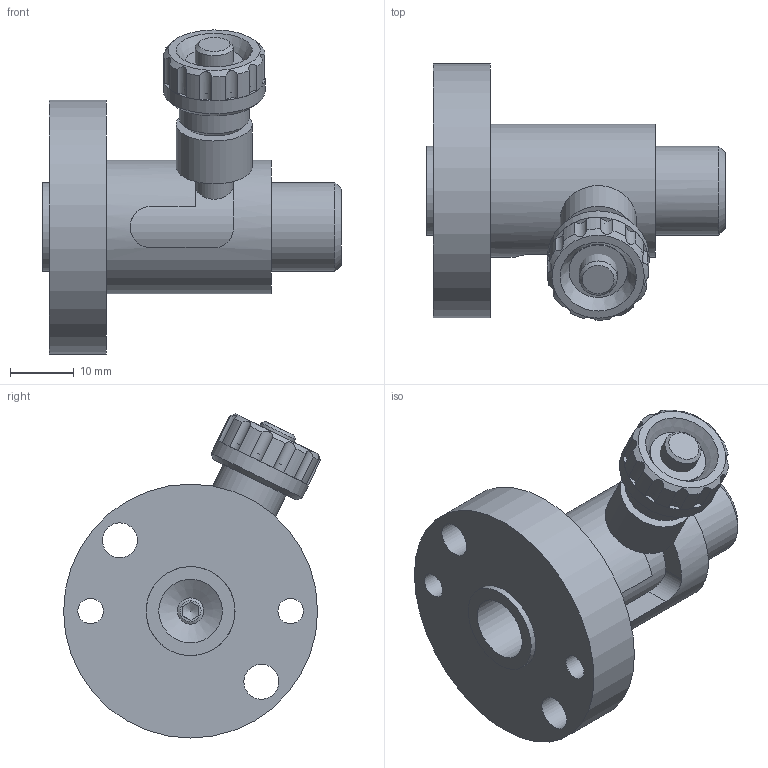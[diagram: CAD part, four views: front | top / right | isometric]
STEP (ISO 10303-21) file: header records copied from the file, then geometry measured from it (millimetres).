
FILE_DESCRIPTION(/* description */ (''),/* implementation_level */ '2;1');
FILE_NAME(/* name */ 'C:\Local Work Area\Progetti\AP\CALIBRI\26.75 APPOGGIO SVINCOLABILE BASSO\26.75.stp',/* time_stamp */ '2017-03-15T09:26:19+01:00',/* author */ ('CAD5'),/* organization */ (''),/* preprocessor_version */ 'ST-DEVELOPER v16.1',/* originating_system */ 'Autodesk Inventor 2016',/* authorisation */ '24952,9 mm^3');
FILE_SCHEMA (('AUTOMOTIVE_DESIGN { 1 0 10303 214 3 1 1 }'));
Length unit declared in the file: millimetre
Products named in the file (8): 26.76; 26.77; 26.53; VOLANTINO ZIGRINATO - 130 10 150; 24.03; UNI 5927 - M5 x 12 - 0,8; RONDELLA UNI8840-A5; 26.75
Assembly tree (7 placements, depth 2):
  26.75
    26.76
    26.77
    26.53
    VOLANTINO ZIGRINATO - 130 10 150
    24.03
    UNI 5927 - M5 x 12 - 0,8
    RONDELLA UNI8840-A5
Bounding box: 47 x 40.44 x 51.04 mm (x, y, z)
Volume: 21740.8 mm3; surface area: 13519.1 mm2
Topology: 7 solids, 7 shells, 102 faces, 240 edges, 158 vertices
Faces by surface type: cylinder 53, plane 32, cone 16, torus 1
Full cylindrical faces by diameter (mm): 4 x3, 4.134 x1, 4.917 x1, 5 x2, 5.3 x1, 5.333 x1, 5.5 x2, 6 x4, 6.647 x1, 9.2 x1, 10 x1, 11 x1, 12 x1, 13.867 x1, 14 x3, 16 x1, 21 x1, 40 x1
Entity records: 3196 total; most frequent: CARTESIAN_POINT 856, DIRECTION 489, ORIENTED_EDGE 364, AXIS2_PLACEMENT_3D 220, EDGE_CURVE 182, EDGE_LOOP 175, VERTEX_POINT 143, CIRCLE 103
